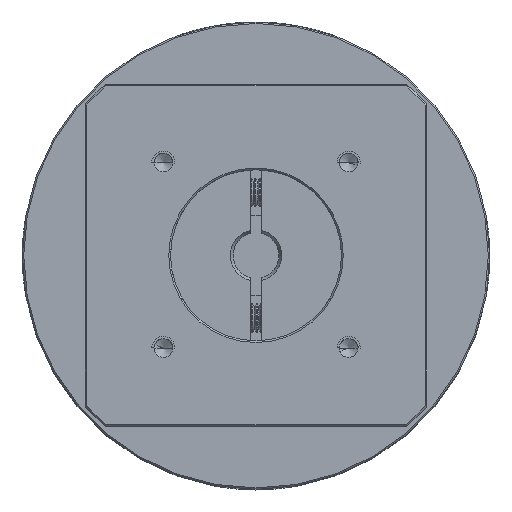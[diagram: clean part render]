
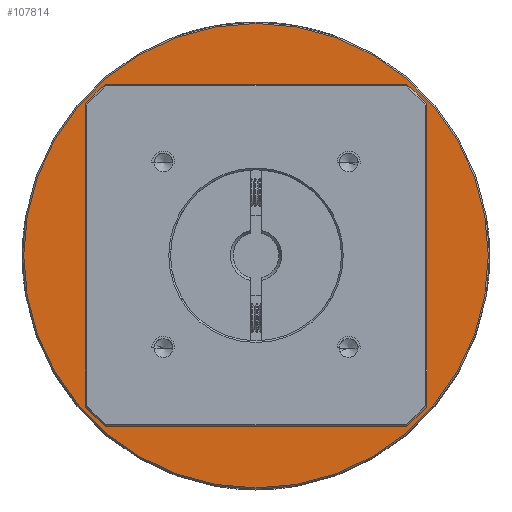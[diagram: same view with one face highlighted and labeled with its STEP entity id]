
A CAD part, top view. The second image highlights one B-rep face of the part: STEP entity #107814.
In plain terms, the highlighted planar face has unit normal (0, 0, 1).
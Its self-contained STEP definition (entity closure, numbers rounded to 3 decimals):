
#120 = DIRECTION ( 'NONE',  ( 0., 0., 1. ) ) ;
#735 = CIRCLE ( 'NONE', #34844, 30. ) ;
#1927 = FACE_BOUND ( 'NONE', #43934, .T. ) ;
#9270 = CARTESIAN_POINT ( 'NONE',  ( -33.822, 16.368, -29.622 ) ) ;
#11462 = ORIENTED_EDGE ( 'NONE', *, *, #59800, .T. ) ;
#15386 = EDGE_CURVE ( 'NONE', #40046, #73061, #64040, .T. ) ;
#24640 = VERTEX_POINT ( 'NONE', #58711 ) ;
#27216 = CARTESIAN_POINT ( 'NONE',  ( -63.822, 16.368, -29.622 ) ) ;
#27405 = AXIS2_PLACEMENT_3D ( 'NONE', #57303, #124722, #66983 ) ;
#27796 = AXIS2_PLACEMENT_3D ( 'NONE', #57974, #120, #67700 ) ;
#28740 = CIRCLE ( 'NONE', #69815, 40.75 ) ;
#31079 = DIRECTION ( 'NONE',  ( 0., 0., -1. ) ) ;
#31487 = EDGE_CURVE ( 'NONE', #24640, #34352, #71258, .T. ) ;
#34352 = VERTEX_POINT ( 'NONE', #9270 ) ;
#34844 = AXIS2_PLACEMENT_3D ( 'NONE', #88865, #31079, #98512 ) ;
#36869 = DIRECTION ( 'NONE',  ( 0., 1., 0. ) ) ;
#38130 = DIRECTION ( 'NONE',  ( 0., 0., -1. ) ) ;
#40046 = VERTEX_POINT ( 'NONE', #119693 ) ;
#43934 = EDGE_LOOP ( 'NONE', ( #53051, #11462 ) ) ;
#53051 = ORIENTED_EDGE ( 'NONE', *, *, #31487, .T. ) ;
#57303 = CARTESIAN_POINT ( 'NONE',  ( -63.822, 16.368, -29.622 ) ) ;
#57974 = CARTESIAN_POINT ( 'NONE',  ( -63.822, 16.368, -29.622 ) ) ;
#58711 = CARTESIAN_POINT ( 'NONE',  ( -93.822, 16.368, -29.622 ) ) ;
#59800 = EDGE_CURVE ( 'NONE', #34352, #24640, #735, .T. ) ;
#63404 = AXIS2_PLACEMENT_3D ( 'NONE', #95890, #38130, #105547 ) ;
#64040 = CIRCLE ( 'NONE', #27405, 40.75 ) ;
#66983 = DIRECTION ( 'NONE',  ( 0., 1., 0. ) ) ;
#67700 = DIRECTION ( 'NONE',  ( 1., 0., 0. ) ) ;
#69815 = AXIS2_PLACEMENT_3D ( 'NONE', #27216, #94662, #36869 ) ;
#71258 = CIRCLE ( 'NONE', #63404, 30. ) ;
#73061 = VERTEX_POINT ( 'NONE', #124301 ) ;
#74514 = ORIENTED_EDGE ( 'NONE', *, *, #75179, .F. ) ;
#75179 = EDGE_CURVE ( 'NONE', #73061, #40046, #28740, .T. ) ;
#75949 = FACE_OUTER_BOUND ( 'NONE', #114787, .T. ) ;
#88865 = CARTESIAN_POINT ( 'NONE',  ( -63.822, 16.368, -29.622 ) ) ;
#94662 = DIRECTION ( 'NONE',  ( 0., 0., -1. ) ) ;
#95890 = CARTESIAN_POINT ( 'NONE',  ( -63.822, 16.368, -29.622 ) ) ;
#98512 = DIRECTION ( 'NONE',  ( -1., 0., 0. ) ) ;
#103177 = ORIENTED_EDGE ( 'NONE', *, *, #15386, .F. ) ;
#105547 = DIRECTION ( 'NONE',  ( -1., 0., 0. ) ) ;
#107814 = ADVANCED_FACE ( 'NONE', ( #75949, #1927 ), #124571, .T. ) ;
#114787 = EDGE_LOOP ( 'NONE', ( #103177, #74514 ) ) ;
#119693 = CARTESIAN_POINT ( 'NONE',  ( -63.822, 57.118, -29.622 ) ) ;
#124301 = CARTESIAN_POINT ( 'NONE',  ( -63.822, -24.382, -29.622 ) ) ;
#124571 = PLANE ( 'NONE',  #27796 ) ;
#124722 = DIRECTION ( 'NONE',  ( 0., 0., -1. ) ) ;
